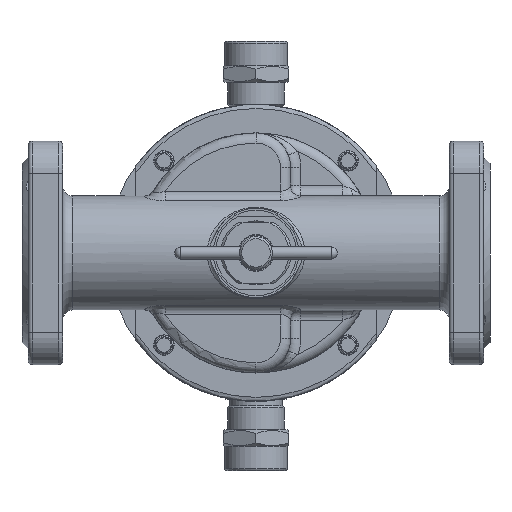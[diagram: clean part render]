
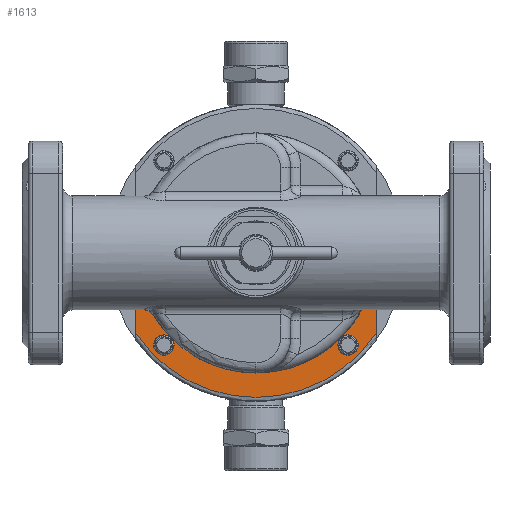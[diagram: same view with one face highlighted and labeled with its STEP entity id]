
A CAD part, front view. The second image highlights one B-rep face of the part: STEP entity #1613.
In plain terms, the highlighted planar face has unit normal (0, -1, 0).
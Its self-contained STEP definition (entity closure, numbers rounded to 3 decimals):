
#1613=ADVANCED_FACE('',(#17145),#17147,.F.);
#17145=FACE_OUTER_BOUND('',#17146,.T.);
#17146=EDGE_LOOP('',(#29499,#29500,#29501,#29502,#29503,#29504,#29505,#29506,#29507,
#29508));
#17147=PLANE('',#17148);
#17148=AXIS2_PLACEMENT_3D('',#17149,#17150,#17151);
#17149=CARTESIAN_POINT('',(0.,39.5,0.));
#17150=DIRECTION('',(0.,1.,0.));
#17151=DIRECTION('',(-1.,0.,0.));
#29499=ORIENTED_EDGE('',*,*,#36827,.F.);
#29500=ORIENTED_EDGE('',*,*,#36828,.F.);
#29501=ORIENTED_EDGE('',*,*,#36829,.F.);
#29502=ORIENTED_EDGE('',*,*,#36770,.F.);
#29503=ORIENTED_EDGE('',*,*,#36830,.F.);
#29504=ORIENTED_EDGE('',*,*,#36764,.F.);
#29505=ORIENTED_EDGE('',*,*,#36831,.F.);
#29506=ORIENTED_EDGE('',*,*,#36832,.F.);
#29507=ORIENTED_EDGE('',*,*,#36833,.F.);
#29508=ORIENTED_EDGE('',*,*,#36834,.F.);
#36764=EDGE_CURVE('',#44445,#44447,#44448,.T.);
#36770=EDGE_CURVE('',#44455,#44457,#44458,.T.);
#36827=EDGE_CURVE('',#44553,#44554,#44555,.T.);
#36828=EDGE_CURVE('',#44554,#44553,#44556,.T.);
#36829=EDGE_CURVE('',#44457,#44554,#44557,.T.);
#36830=EDGE_CURVE('',#44447,#44455,#44558,.T.);
#36831=EDGE_CURVE('',#44559,#44445,#44560,.T.);
#36832=EDGE_CURVE('',#44561,#44559,#44562,.T.);
#36833=EDGE_CURVE('',#44559,#44561,#44563,.T.);
#36834=EDGE_CURVE('',#44554,#44559,#44564,.T.);
#44445=VERTEX_POINT('',#67963);
#44447=VERTEX_POINT('',#67967);
#44448=LINE('',#67968,#67969);
#44455=VERTEX_POINT('',#68038);
#44457=VERTEX_POINT('',#68094);
#44458=LINE('',#68095,#68096);
#44553=VERTEX_POINT('',#69035);
#44554=VERTEX_POINT('',#69036);
#44555=CIRCLE('',#69037,5.);
#44556=CIRCLE('',#69041,5.);
#44557=CIRCLE('',#69045,59.);
#44558=CIRCLE('',#69049,71.);
#44559=VERTEX_POINT('',#69053);
#44560=CIRCLE('',#69054,59.);
#44561=VERTEX_POINT('',#69058);
#44562=CIRCLE('',#69059,5.);
#44563=CIRCLE('',#69063,5.);
#44564=CIRCLE('',#69067,59.);
#67963=CARTESIAN_POINT('',(59.,39.5,0.));
#67967=CARTESIAN_POINT('',(59.,39.5,-39.497));
#67968=CARTESIAN_POINT('',(59.,39.5,0.));
#67969=VECTOR('',#67970,1.);
#67970=DIRECTION('',(0.,0.,-1.));
#68038=CARTESIAN_POINT('',(-59.,39.5,-39.497));
#68094=CARTESIAN_POINT('',(-59.,39.5,0.));
#68095=CARTESIAN_POINT('',(-59.,39.5,-39.497));
#68096=VECTOR('',#68097,1.);
#68097=DIRECTION('',(0.,0.,1.));
#69035=CARTESIAN_POINT('',(-42.051,39.5,-49.093));
#69036=CARTESIAN_POINT('',(-41.719,39.5,-41.719));
#69037=AXIS2_PLACEMENT_3D('',#69038,#69039,#69040);
#69038=CARTESIAN_POINT('',(-45.255,39.5,-45.255));
#69039=DIRECTION('',(0.,-1.,0.));
#69040=DIRECTION('',(0.641,0.,-0.768));
#69041=AXIS2_PLACEMENT_3D('',#69042,#69043,#69044);
#69042=CARTESIAN_POINT('',(-45.255,39.5,-45.255));
#69043=DIRECTION('',(0.,-1.,0.));
#69044=DIRECTION('',(0.707,0.,0.707));
#69045=AXIS2_PLACEMENT_3D('',#69046,#69047,#69048);
#69046=CARTESIAN_POINT('',(0.,39.5,0.));
#69047=DIRECTION('',(0.,-1.,0.));
#69048=DIRECTION('',(-1.,0.,0.));
#69049=AXIS2_PLACEMENT_3D('',#69050,#69051,#69052);
#69050=CARTESIAN_POINT('',(0.,39.5,0.));
#69051=DIRECTION('',(0.,1.,0.));
#69052=DIRECTION('',(0.831,0.,-0.556));
#69053=CARTESIAN_POINT('',(41.719,39.5,-41.719));
#69054=AXIS2_PLACEMENT_3D('',#69055,#69056,#69057);
#69055=CARTESIAN_POINT('',(0.,39.5,0.));
#69056=DIRECTION('',(0.,-1.,0.));
#69057=DIRECTION('',(0.707,0.,-0.707));
#69058=CARTESIAN_POINT('',(49.093,39.5,-42.051));
#69059=AXIS2_PLACEMENT_3D('',#69060,#69061,#69062);
#69060=CARTESIAN_POINT('',(45.255,39.5,-45.255));
#69061=DIRECTION('',(0.,-1.,0.));
#69062=DIRECTION('',(0.768,0.,0.641));
#69063=AXIS2_PLACEMENT_3D('',#69064,#69065,#69066);
#69064=CARTESIAN_POINT('',(45.255,39.5,-45.255));
#69065=DIRECTION('',(0.,-1.,0.));
#69066=DIRECTION('',(-0.707,0.,0.707));
#69067=AXIS2_PLACEMENT_3D('',#69068,#69069,#69070);
#69068=CARTESIAN_POINT('',(0.,39.5,0.));
#69069=DIRECTION('',(0.,-1.,0.));
#69070=DIRECTION('',(-0.707,0.,-0.707));
